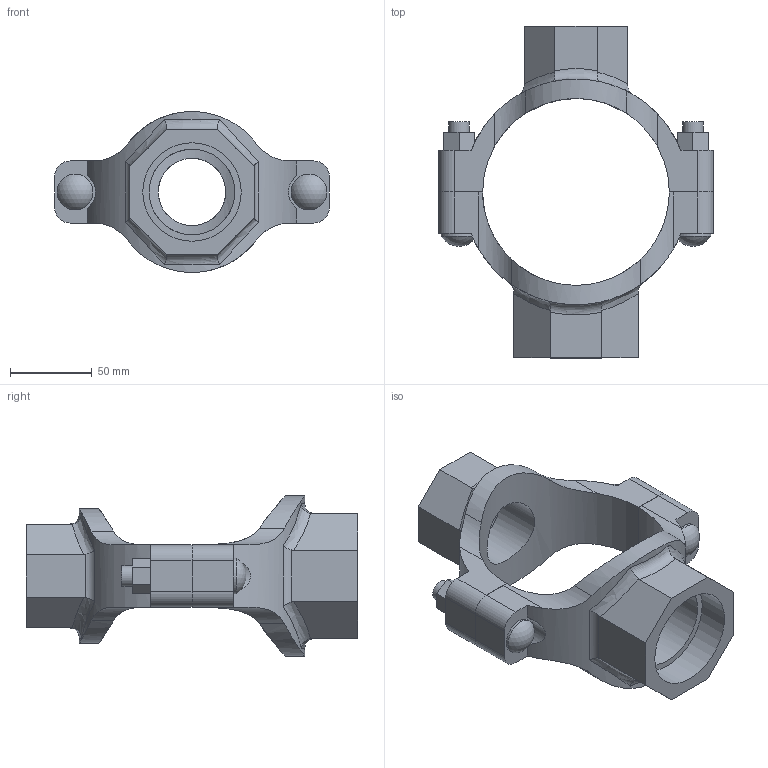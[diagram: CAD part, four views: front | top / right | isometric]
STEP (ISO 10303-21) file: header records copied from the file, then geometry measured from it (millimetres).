
FILE_DESCRIPTION(/* description */ ('VIC MECH-T BRANCH OUTLET CROSS STYLE 920N (THD)','CAx-IF Rec.Pracs.---Representation and Presentation of Product Manufacturing Information (PMI)---4.0---2014-10-13'),/* implementation_level */ '2;1');
FILE_NAME(/* name */ 'C:\Users\Vjadhav\AppData\Roaming\Autodesk\ApplicationPlugins\Back Up\Victaulic_IPS_Mechanical-Cross Outlet_Style 920N (FPT)\Victaulic_IPS_Mechanical-Cross Outlet_04.0x01.5x02.0 (100x40x50).stp',/* time_stamp */ '2020-08-06T18:58:39+05:00',/* author */ ('Vjadhav'),/* organization */ ('Victaulic'),/* preprocessor_version */ 'ST-DEVELOPER v17.2',/* originating_system */ 'Autodesk Inventor 2019',/* authorisation */ '');
FILE_SCHEMA (('AP242_MANAGED_MODEL_BASED_3D_ENGINEERING_MIM_LF { 1 0 10303 442 1 1 4 }'));
Length unit declared in the file: inch
Products named in the file (3): 920NT-04.0x01.5x02.0; 920NT-04.0x01.5; 920NT-04.0x02.0
Assembly tree (2 placements, depth 2):
  920NT-04.0x01.5x02.0
    920NT-04.0x01.5
    920NT-04.0x02.0
Bounding box: 168.4 x 203.2 x 98.44 mm (x, y, z)
Volume: 429731.7 mm3; surface area: 100465.5 mm2
Topology: 2 solids, 2 shells, 132 faces, 350 edges, 236 vertices
Faces by surface type: plane 68, cylinder 50, bspline 8, torus 4, sphere 2
Full cylindrical faces by diameter (mm): 12.7 x4, 21.982 x2, 41.275 x1, 48.26 x1, 52.387 x1, 60.325 x1
Entity records: 5334 total; most frequent: CARTESIAN_POINT 1821, ORIENTED_EDGE 700, DIRECTION 648, EDGE_CURVE 350, VERTEX_POINT 236, AXIS2_PLACEMENT_3D 231, LINE 186, VECTOR 186
